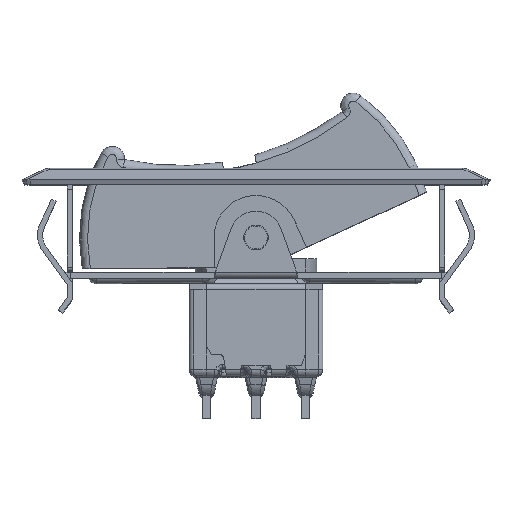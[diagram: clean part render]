
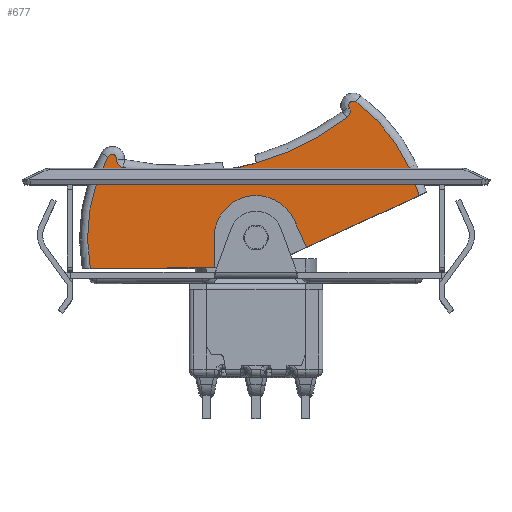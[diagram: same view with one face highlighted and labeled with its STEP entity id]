
A CAD part, top view. The second image highlights one B-rep face of the part: STEP entity #677.
In plain terms, the highlighted planar face has unit normal (0, 0, 1).
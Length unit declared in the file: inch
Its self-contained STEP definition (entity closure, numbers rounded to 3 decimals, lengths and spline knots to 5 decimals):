
#677 = ADVANCED_FACE( '', ( #2331 ), #2332, .F. );
#2331 = FACE_OUTER_BOUND( '', #7171, .T. );
#2332 = PLANE( '', #7172 );
#7171 = EDGE_LOOP( '', ( #13832, #13833, #13834, #13835, #13836, #13837, #13838, #13839, #13840, #13841, #13842, #13843, #13844, #13845 ) );
#7172 = AXIS2_PLACEMENT_3D( '', #13846, #13847, #13848 );
#13832 = ORIENTED_EDGE( '', *, *, #19665, .T. );
#13833 = ORIENTED_EDGE( '', *, *, #19664, .T. );
#13834 = ORIENTED_EDGE( '', *, *, #17901, .T. );
#13835 = ORIENTED_EDGE( '', *, *, #19662, .T. );
#13836 = ORIENTED_EDGE( '', *, *, #19667, .T. );
#13837 = ORIENTED_EDGE( '', *, *, #18754, .T. );
#13838 = ORIENTED_EDGE( '', *, *, #19850, .T. );
#13839 = ORIENTED_EDGE( '', *, *, #19563, .T. );
#13840 = ORIENTED_EDGE( '', *, *, #19851, .F. );
#13841 = ORIENTED_EDGE( '', *, *, #19852, .T. );
#13842 = ORIENTED_EDGE( '', *, *, #19825, .T. );
#13843 = ORIENTED_EDGE( '', *, *, #19478, .F. );
#13844 = ORIENTED_EDGE( '', *, *, #19853, .F. );
#13845 = ORIENTED_EDGE( '', *, *, #19278, .T. );
#13846 = CARTESIAN_POINT( '', ( 0., 0.19303, 0.2975 ) );
#13847 = DIRECTION( '', ( 0., 0., -1. ) );
#13848 = DIRECTION( '', ( 0., -1., 0. ) );
#17901 = EDGE_CURVE( '', #20748, #20753, #20755, .T. );
#18754 = EDGE_CURVE( '', #22341, #22343, #22345, .T. );
#19278 = EDGE_CURVE( '', #23247, #23245, #23248, .T. );
#19478 = EDGE_CURVE( '', #23561, #23564, #23565, .T. );
#19563 = EDGE_CURVE( '', #23694, #23695, #23696, .T. );
#19662 = EDGE_CURVE( '', #20753, #20738, #23843, .T. );
#19664 = EDGE_CURVE( '', #23844, #20748, #23846, .T. );
#19665 = EDGE_CURVE( '', #23245, #23844, #23847, .T. );
#19667 = EDGE_CURVE( '', #20738, #22341, #23849, .T. );
#19825 = EDGE_CURVE( '', #24074, #23564, #24075, .T. );
#19850 = EDGE_CURVE( '', #22343, #23694, #24107, .T. );
#19851 = EDGE_CURVE( '', #24108, #23695, #24109, .T. );
#19852 = EDGE_CURVE( '', #24108, #24074, #24110, .T. );
#19853 = EDGE_CURVE( '', #23247, #23561, #24111, .T. );
#20738 = VERTEX_POINT( '', #25375 );
#20748 = VERTEX_POINT( '', #25415 );
#20753 = VERTEX_POINT( '', #25420 );
#20755 = CIRCLE( '', #25430, 1.03 );
#22341 = VERTEX_POINT( '', #28789 );
#22343 = VERTEX_POINT( '', #28791 );
#22345 = CIRCLE( '', #28793, 0.03 );
#23245 = VERTEX_POINT( '', #30661 );
#23247 = VERTEX_POINT( '', #30663 );
#23248 = CIRCLE( '', #30664, 0.63 );
#23561 = VERTEX_POINT( '', #31415 );
#23564 = VERTEX_POINT( '', #31419 );
#23565 = LINE( '', #31420, #31421 );
#23694 = VERTEX_POINT( '', #31750 );
#23695 = VERTEX_POINT( '', #31751 );
#23696 = CIRCLE( '', #31752, 0.63 );
#23843 = B_SPLINE_CURVE_WITH_KNOTS( '', 3, ( #32057, #32058, #32059, #32060, #32061, #32062, #32063 ), .UNSPECIFIED., .F., .F., ( 4, 1, 1, 1, 4 ), ( 0., 0.25, 0.5, 0.75, 1. ), .UNSPECIFIED. );
#23844 = VERTEX_POINT( '', #32064 );
#23846 = CIRCLE( '', #32066, 0.03 );
#23847 = CIRCLE( '', #32067, 0.017 );
#23849 = CIRCLE( '', #32069, 1.03 );
#24074 = VERTEX_POINT( '', #32471 );
#24075 = CIRCLE( '', #32472, 0.157 );
#24107 = CIRCLE( '', #32525, 0.017 );
#24108 = VERTEX_POINT( '', #32526 );
#24109 = LINE( '', #32527, #32528 );
#24110 = LINE( '', #32529, #32530 );
#24111 = LINE( '', #32531, #32532 );
#25375 = CARTESIAN_POINT( '', ( -0.11886, 0.44524, 0.2975 ) );
#25415 = CARTESIAN_POINT( '', ( 0.34013, 0.64086, 0.2975 ) );
#25420 = CARTESIAN_POINT( '', ( 0.00113, 0.47184, 0.2975 ) );
#25430 = AXIS2_PLACEMENT_3D( '', #34434, #34435, #34436 );
#28789 = CARTESIAN_POINT( '', ( -0.49752, 0.45515, 0.2975 ) );
#28791 = CARTESIAN_POINT( '', ( -0.5212, 0.48577, 0.2975 ) );
#28793 = AXIS2_PLACEMENT_3D( '', #35515, #35516, #35517 );
#30661 = CARTESIAN_POINT( '', ( 0.37382, 0.70014, 0.2975 ) );
#30663 = CARTESIAN_POINT( '', ( 0.61009, 0.35017, 0.2975 ) );
#30664 = AXIS2_PLACEMENT_3D( '', #36177, #36178, #36179 );
#31415 = CARTESIAN_POINT( '', ( 0.18961, 0.15659, 0.2975 ) );
#31419 = CARTESIAN_POINT( '', ( 0.14261, 0.25869, 0.2975 ) );
#31420 = CARTESIAN_POINT( '', ( 0.18961, 0.15659, 0.2975 ) );
#31421 = VECTOR( '', #36401, 39.37008 );
#31750 = CARTESIAN_POINT( '', ( -0.55311, 0.49464, 0.2975 ) );
#31751 = CARTESIAN_POINT( '', ( -0.61934, 0.07761, 0.2975 ) );
#31752 = AXIS2_PLACEMENT_3D( '', #36501, #36502, #36503 );
#32057 = CARTESIAN_POINT( '', ( 0.00114, 0.47178, 0.2975 ) );
#32058 = CARTESIAN_POINT( '', ( -0.00871, 0.46897, 0.2975 ) );
#32059 = CARTESIAN_POINT( '', ( -0.02848, 0.46356, 0.2975 ) );
#32060 = CARTESIAN_POINT( '', ( -0.05841, 0.4565, 0.2975 ) );
#32061 = CARTESIAN_POINT( '', ( -0.08851, 0.45025, 0.2975 ) );
#32062 = CARTESIAN_POINT( '', ( -0.10872, 0.4468, 0.2975 ) );
#32063 = CARTESIAN_POINT( '', ( -0.11884, 0.44518, 0.2975 ) );
#32064 = CARTESIAN_POINT( '', ( 0.34865, 0.67861, 0.2975 ) );
#32066 = AXIS2_PLACEMENT_3D( '', #36642, #36643, #36644 );
#32067 = AXIS2_PLACEMENT_3D( '', #36645, #36646, #36647 );
#32069 = AXIS2_PLACEMENT_3D( '', #36651, #36652, #36653 );
#32471 = CARTESIAN_POINT( '', ( -0.157, 0.19226, 0.2975 ) );
#32472 = AXIS2_PLACEMENT_3D( '', #36868, #36869, #36870 );
#32525 = AXIS2_PLACEMENT_3D( '', #36901, #36902, #36903 );
#32526 = CARTESIAN_POINT( '', ( -0.15645, 0.07987, 0.2975 ) );
#32527 = CARTESIAN_POINT( '', ( -0.15645, 0.07987, 0.2975 ) );
#32528 = VECTOR( '', #36904, 39.37008 );
#32529 = CARTESIAN_POINT( '', ( -0.15645, 0.07987, 0.2975 ) );
#32530 = VECTOR( '', #36905, 39.37008 );
#32531 = CARTESIAN_POINT( '', ( 0.61009, 0.35017, 0.2975 ) );
#32532 = VECTOR( '', #36906, 39.37008 );
#34434 = CARTESIAN_POINT( '', ( -0.28137, 1.46222, 0.2975 ) );
#34435 = DIRECTION( '', ( 0., 0., -1. ) );
#34436 = DIRECTION( '', ( 0.603, -0.797, 0. ) );
#35515 = CARTESIAN_POINT( '', ( -0.49123, 0.48448, 0.2975 ) );
#35516 = DIRECTION( '', ( 0., 0., -1. ) );
#35517 = DIRECTION( '', ( -0.21, -0.978, 0. ) );
#36177 = CARTESIAN_POINT( '', ( 0., 0.19303, 0.2975 ) );
#36178 = DIRECTION( '', ( 0., 0., 1. ) );
#36179 = DIRECTION( '', ( 0.968, 0.249, 0. ) );
#36401 = DIRECTION( '', ( -0.418, 0.908, 0. ) );
#36501 = CARTESIAN_POINT( '', ( 0., 0.19303, 0.2975 ) );
#36502 = DIRECTION( '', ( 0., 0., 1. ) );
#36503 = DIRECTION( '', ( -0.878, 0.479, 0. ) );
#36642 = CARTESIAN_POINT( '', ( 0.32203, 0.66478, 0.2975 ) );
#36643 = DIRECTION( '', ( 0., 0., -1. ) );
#36644 = DIRECTION( '', ( 0.887, 0.461, 0. ) );
#36645 = CARTESIAN_POINT( '', ( 0.36373, 0.68645, 0.2975 ) );
#36646 = DIRECTION( '', ( 0., 0., 1. ) );
#36647 = DIRECTION( '', ( 0.593, 0.805, 0. ) );
#36651 = CARTESIAN_POINT( '', ( -0.28137, 1.46222, 0.2975 ) );
#36652 = DIRECTION( '', ( 0., 0., -1. ) );
#36653 = DIRECTION( '', ( 0.158, -0.987, 0. ) );
#36868 = CARTESIAN_POINT( '', ( 0., 0.19303, 0.2975 ) );
#36869 = DIRECTION( '', ( 0., 0., -1. ) );
#36870 = DIRECTION( '', ( -1., -0.005, 0. ) );
#36901 = CARTESIAN_POINT( '', ( -0.53819, 0.4865, 0.2975 ) );
#36902 = DIRECTION( '', ( 0., 0., 1. ) );
#36903 = DIRECTION( '', ( 0.999, -0.043, 0. ) );
#36904 = DIRECTION( '', ( -1., -0.005, 0. ) );
#36905 = DIRECTION( '', ( -0.005, 1., 0. ) );
#36906 = DIRECTION( '', ( -0.908, -0.418, 0. ) );
